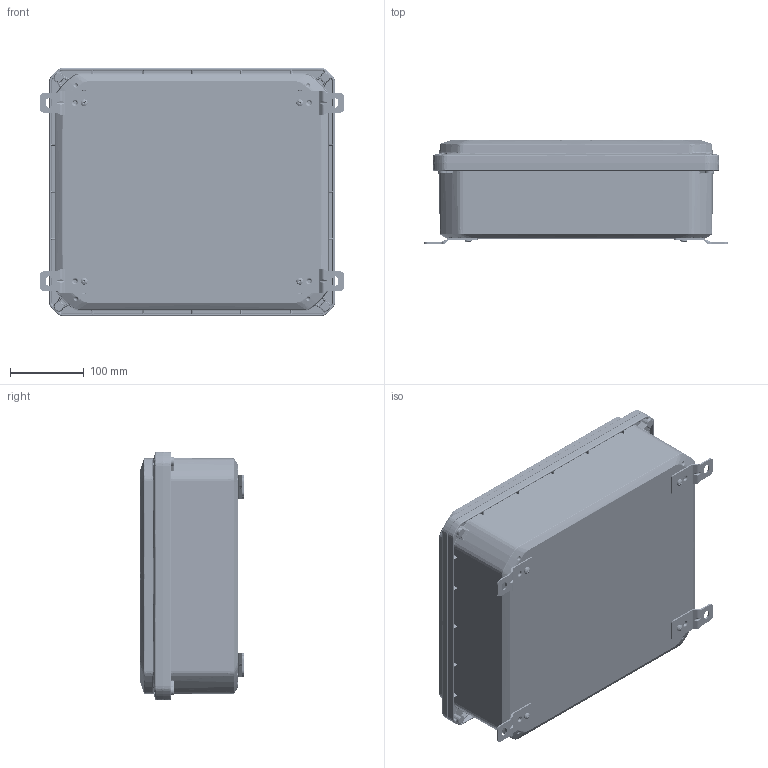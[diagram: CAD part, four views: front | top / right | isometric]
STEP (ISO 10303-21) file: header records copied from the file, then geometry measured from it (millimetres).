
FILE_DESCRIPTION (( 'STEP AP214' ), '1' );
FILE_NAME ('ZQ-141204-44.STEP', '2024-10-25T19:41:15', ( '' ), ( '' ), 'SwSTEP 2.0', 'SolidWorks 2024', '' );
FILE_SCHEMA (( 'AUTOMOTIVE_DESIGN' ));
Length unit declared in the file: inch
Products named in the file (11): ZQ-141204-44; Z_-14124B_ZQ-14124B-01; INSERTS-4; ZH-91F-01_ZH-91F-01; ZH-1412G; SCREWS-047_default; SCREWS-049_SCREWS-049; Z_-14121C_ZQ-14121C-01; Z_-14121CG_ZQ-14121CG-01; Z_-14124BI_ZQ-14124BI-01; LABEL-104
Assembly tree (30 placements, depth 3):
  ZQ-141204-44
    Z_-14124BI_ZQ-14124BI-01
      Z_-14124B_ZQ-14124B-01
      INSERTS-4  x12
      LABEL-104
    Z_-14121CG_ZQ-14121CG-01
      Z_-14121C_ZQ-14121C-01
      ZH-1412G
    SCREWS-047_default  x4
    ZH-91F-01_ZH-91F-01  x4
    SCREWS-049_SCREWS-049  x4
Bounding box: 412.75 x 139.7 x 336.3 mm (x, y, z)
Volume: 2066604.1 mm3; surface area: 983755.9 mm2
Topology: 28 solids, 28 shells, 5706 faces, 13986 edges, 8366 vertices
Faces by surface type: bspline 1700, plane 1250, cylinder 1132, cone 848, torus 744, sphere 32
Entity records: 214159 total; most frequent: CARTESIAN_POINT 127602, ORIENTED_EDGE 19914, DIRECTION 15934, EDGE_CURVE 9957, AXIS2_PLACEMENT_3D 6915, VERTEX_POINT 5838, EDGE_LOOP 4447, FACE_OUTER_BOUND 4283
